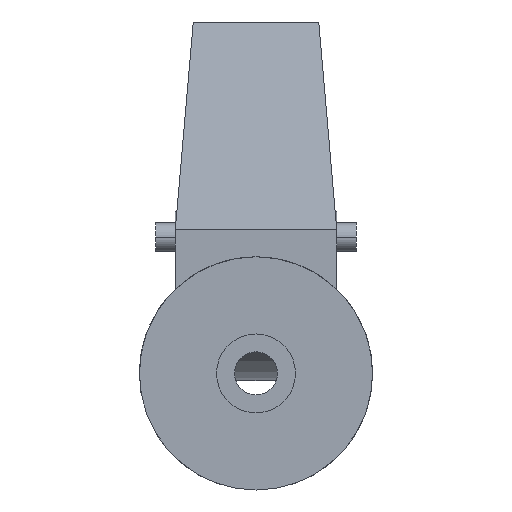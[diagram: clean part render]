
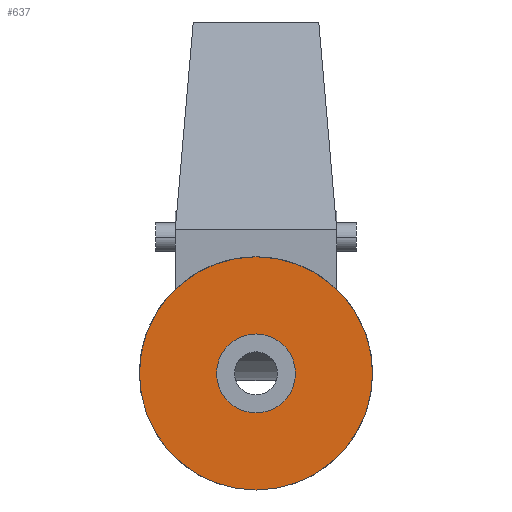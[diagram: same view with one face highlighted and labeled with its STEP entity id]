
A CAD part, front view. The second image highlights one B-rep face of the part: STEP entity #637.
In plain terms, the highlighted planar face has unit normal (0, -1, 0).
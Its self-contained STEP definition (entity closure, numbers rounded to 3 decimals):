
#1=CARTESIAN_POINT('',(0.,0.,0.));
#2=DIRECTION('',(0.,1.,0.));
#3=DIRECTION('',(1.,0.,0.));
#4=AXIS2_PLACEMENT_3D('',#1,#2,#3);
#6=CARTESIAN_POINT('',(0.,0.,0.));
#7=DIRECTION('',(0.,1.,0.));
#8=DIRECTION('',(-1.,0.,0.));
#9=AXIS2_PLACEMENT_3D('',#6,#7,#8);
#11=CARTESIAN_POINT('',(0.,0.,0.));
#12=DIRECTION('',(0.,1.,0.));
#13=DIRECTION('',(1.,0.,0.));
#14=AXIS2_PLACEMENT_3D('',#11,#12,#13);
#16=CARTESIAN_POINT('',(0.,0.,0.));
#17=DIRECTION('',(0.,1.,0.));
#18=DIRECTION('',(-1.,0.,0.));
#19=AXIS2_PLACEMENT_3D('',#16,#17,#18);
#492=CARTESIAN_POINT('',(32.5,0.,0.));
#493=CARTESIAN_POINT('',(-32.5,0.,0.));
#494=VERTEX_POINT('',#492);
#495=VERTEX_POINT('',#493);
#500=CARTESIAN_POINT('',(11.,0.,0.));
#501=VERTEX_POINT('',#500);
#502=CARTESIAN_POINT('',(-11.,0.,0.));
#503=VERTEX_POINT('',#502);
#620=CARTESIAN_POINT('',(0.,0.,0.));
#621=DIRECTION('',(0.,1.,0.));
#622=DIRECTION('',(1.,0.,0.));
#623=AXIS2_PLACEMENT_3D('',#620,#621,#622);
#624=PLANE('',#623);
#626=ORIENTED_EDGE('',*,*,#625,.T.);
#628=ORIENTED_EDGE('',*,*,#627,.T.);
#629=EDGE_LOOP('',(#626,#628));
#630=FACE_OUTER_BOUND('',#629,.F.);
#632=ORIENTED_EDGE('',*,*,#631,.F.);
#634=ORIENTED_EDGE('',*,*,#633,.F.);
#635=EDGE_LOOP('',(#632,#634));
#636=FACE_BOUND('',#635,.F.);
#637=ADVANCED_FACE('',(#630,#636),#624,.F.);
#5=CIRCLE('',#4,32.5);
#10=CIRCLE('',#9,32.5);
#15=CIRCLE('',#14,11.);
#20=CIRCLE('',#19,11.);
#625=EDGE_CURVE('',#494,#495,#5,.T.);
#627=EDGE_CURVE('',#495,#494,#10,.T.);
#631=EDGE_CURVE('',#501,#503,#15,.T.);
#633=EDGE_CURVE('',#503,#501,#20,.T.);
